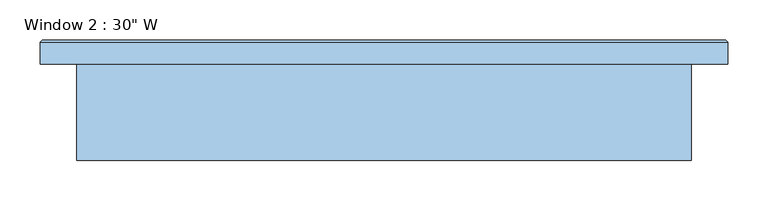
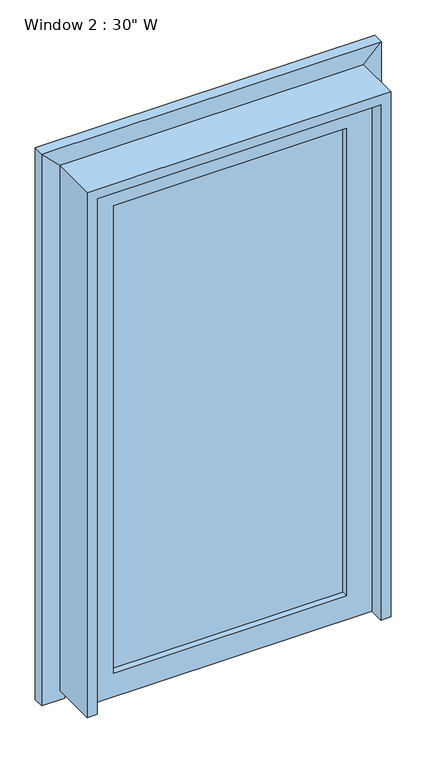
"""IFC4 building model written with IfcOpenShell, lengths in millimetres: window geometry."""

from ifc_helpers import new_model, si_unit, frame, origin, place, context, project, spatial, polyline, outline, extrude, faceted_brep, source, transform, mapped, element, save


def window_3b8f106a(model_context):
    return source(origin(), model_context, "Body", "SolidModel", [
        faceted_brep([(368.3, 119.0625, 781.05), (370.2950984, 121.0575984, 781.05), (370.545064, 121.307564, 781.05), (395.945064, 121.307564, 781.05), (398.1901281, 123.5526281, 781.05), (423.5901281, 123.5526281, 781.05), (425.8351921, 121.307564, 781.05), (425.8351921, 121.0575984, 781.05), (425.8351921, 93.6625, 781.05), (368.3, 93.6625, 781.05), (368.3, 119.0625, 781.5176691), (368.3, 119.0625, 2184.4), (370.545064, 121.307564, 2186.645064), (395.945064, 121.307564, 2212.045064), (398.1901281, 123.5526281, 2214.2901281), (423.5901281, 123.5526281, 2239.6901281), (425.8351921, 121.307564, 2241.9351921), (425.8351921, 93.6625, 2241.9351921), (425.8351921, 93.6625, 787.4716586), (368.3, 93.6625, 2184.4), (368.3, 93.6625, 787.4716586), (-368.3, 119.0625, 2184.4), (-370.545064, 121.307564, 2186.645064), (-395.945064, 121.307564, 2212.045064), (-398.1901281, 123.5526281, 2214.2901281), (-423.5901281, 123.5526281, 2239.6901281), (-425.8351921, 121.307564, 2241.9351921), (-425.8351921, 93.6625, 2241.9351921), (-368.3, 93.6625, 2184.4), (-368.3, 119.0625, 781.05), (-368.3, 93.6625, 781.05), (-425.8351921, 93.6625, 781.05), (-425.8351921, 121.0575984, 781.05), (-425.8351921, 121.307564, 781.05), (-423.5901281, 123.5526281, 781.05), (-398.1901281, 123.5526281, 781.05), (-395.945064, 121.307564, 781.05), (-370.545064, 121.307564, 781.05), (-370.2950984, 121.0575984, 781.05), (-368.3, 119.0625, 781.5176691), (-425.8351921, 93.6625, 787.4716586), (-368.3, 93.6625, 787.4716586)], [[[0, 1, 2, 3, 4, 5, 6, 7, 8, 9]], [[2, 1, 0, 10, 11, 12]], [[3, 2, 12, 13]], [[4, 3, 13, 14]], [[5, 4, 14, 15]], [[6, 5, 15, 16]], [[8, 7, 6, 16, 17, 18]], [[9, 8, 18, 17, 19, 20]], [[0, 9, 20, 19, 11, 10]], [[12, 11, 21, 22]], [[13, 12, 22, 23]], [[14, 13, 23, 24]], [[15, 14, 24, 25]], [[16, 15, 25, 26]], [[17, 16, 26, 27]], [[19, 17, 27, 28]], [[11, 19, 28, 21]], [[29, 30, 31, 32, 33, 34, 35, 36, 37, 38]], [[22, 21, 39, 29, 38, 37]], [[23, 22, 37, 36]], [[24, 23, 36, 35]], [[25, 24, 35, 34]], [[26, 25, 34, 33]], [[27, 26, 33, 32, 31, 40]], [[28, 27, 40, 31, 30, 41]], [[21, 28, 41, 30, 29, 39]]]),
        extrude(outline(polyline([(292.1, 29.5671875), (-292.1, 29.5671875), (-292.1, 46.434375), (292.1, 46.434375), (292.1, 29.5671875)])), frame((0.0, 0.0, 869.95), z_axis=(0.0, 0.0, 1.0), x_axis=(1.0, 0.0, 0.0)), (0.0, 0.0, 1.0), 1238.25),
        extrude(outline(polyline([(806.45, 355.6), (2171.7, 355.6), (2171.7, -355.6), (806.45, -355.6), (806.45, 355.6)]), holes=[polyline([(869.95, 292.1), (869.95, -292.1), (2108.2, -292.1), (2108.2, 292.1), (869.95, 292.1)])]), frame((0.0, 12.7, 0.0), z_axis=(0.0, 1.0, 0.0), x_axis=(0.0, 0.0, 1.0)), (0.0, 0.0, 1.0), 50.6015625),
        extrude(outline(polyline([(2197.1, -381.0), (806.45, -381.0), (806.45, -355.6), (2171.7, -355.6), (2171.7, 355.6), (806.45, 355.6), (806.45, 381.0), (2197.1, 381.0), (2197.1, -381.0)])), frame((0.0, -25.4, 0.0), z_axis=(0.0, 1.0, 0.0), x_axis=(0.0, 0.0, 1.0)), (0.0, 0.0, 1.0), 119.0625),
    ])


if __name__ == "__main__":
    model = new_model("IFC4")
    model_context = context("Model", 3, world=origin())
    ifc_project = project(units=[si_unit("LENGTHUNIT", "METRE", prefix="MILLI")], contexts=[model_context])
    site = spatial("IfcSite", under=ifc_project)
    building = spatial("IfcBuilding", under=site)
    placement = place(None, origin())
    window_shape = window_3b8f106a(model_context)
    element("IfcWindow", 1, ObjectType="Window 2 : 30\" W", at=placement, inside=building, context=model_context, shape_type="MappedRepresentation", body=[
        mapped(window_shape, transform((0.0, 0.0, 0.0), x_axis=(1.0, 0.0, 0.0), y_axis=(0.0, 1.0, 0.0), z_axis=(0.0, 0.0, 1.0))),
    ])
    save(model, "model.ifc")
